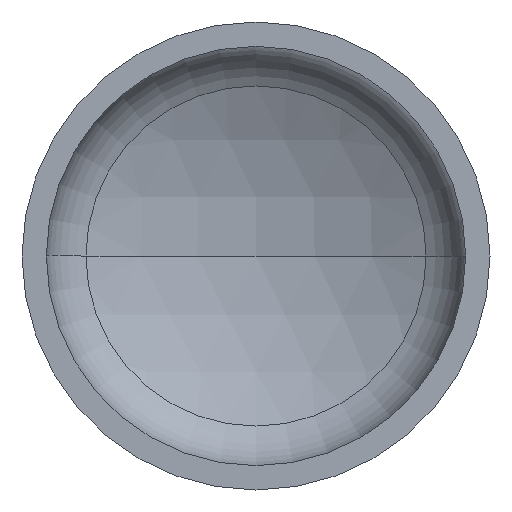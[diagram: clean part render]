
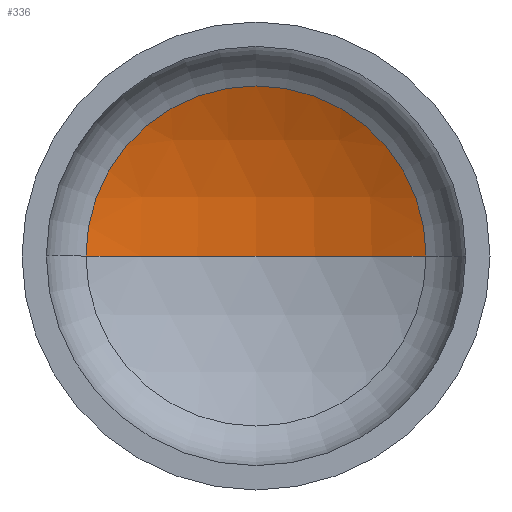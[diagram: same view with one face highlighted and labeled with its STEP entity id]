
A CAD part, front view. The second image highlights one B-rep face of the part: STEP entity #336.
In plain terms, the highlighted spherical face has radius 800 mm.
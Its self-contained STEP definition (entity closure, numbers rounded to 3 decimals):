
#4 = AXIS2_PLACEMENT_3D ( 'NONE', #193, #290, #84 ) ;
#11 = AXIS2_PLACEMENT_3D ( 'NONE', #238, #337, #61 ) ;
#18 = EDGE_LOOP ( 'NONE', ( #95, #47, #197 ) ) ;
#37 = CARTESIAN_POINT ( 'NONE',  ( 0., -454.609, 0. ) ) ;
#38 = AXIS2_PLACEMENT_3D ( 'NONE', #37, #160, #162 ) ;
#47 = ORIENTED_EDGE ( 'NONE', *, *, #385, .T. ) ;
#61 = DIRECTION ( 'NONE',  ( 1., 0., 0. ) ) ;
#83 = FACE_OUTER_BOUND ( 'NONE', #18, .T. ) ;
#84 = DIRECTION ( 'NONE',  ( 1., 0., 0. ) ) ;
#95 = ORIENTED_EDGE ( 'NONE', *, *, #369, .F. ) ;
#131 = VERTEX_POINT ( 'NONE', #320 ) ;
#144 = DIRECTION ( 'NONE',  ( -1., 0., 0. ) ) ;
#160 = DIRECTION ( 'NONE',  ( 0., 0., -1. ) ) ;
#162 = DIRECTION ( 'NONE',  ( -1., 0., 0. ) ) ;
#181 = CIRCLE ( 'NONE', #4, 363.411 ) ;
#193 = CARTESIAN_POINT ( 'NONE',  ( 0., 258.084, 0. ) ) ;
#197 = ORIENTED_EDGE ( 'NONE', *, *, #389, .T. ) ;
#212 = AXIS2_PLACEMENT_3D ( 'NONE', #405, #272, #144 ) ;
#238 = CARTESIAN_POINT ( 'NONE',  ( 0., -454.609, 0. ) ) ;
#272 = DIRECTION ( 'NONE',  ( 0., 0., -1. ) ) ;
#275 = VERTEX_POINT ( 'NONE', #338 ) ;
#290 = DIRECTION ( 'NONE',  ( 0., -1., 0. ) ) ;
#320 = CARTESIAN_POINT ( 'NONE',  ( -363.411, 258.084, 0. ) ) ;
#335 = SPHERICAL_SURFACE ( 'NONE', #38, 800. ) ;
#336 = ADVANCED_FACE ( 'NONE', ( #83 ), #335, .F. ) ;
#337 = DIRECTION ( 'NONE',  ( 0., 0., 1. ) ) ;
#338 = CARTESIAN_POINT ( 'NONE',  ( 363.411, 258.084, 0. ) ) ;
#369 = EDGE_CURVE ( 'NONE', #392, #131, #376, .T. ) ;
#370 = CIRCLE ( 'NONE', #212, 800. ) ;
#376 = CIRCLE ( 'NONE', #11, 800. ) ;
#385 = EDGE_CURVE ( 'NONE', #392, #275, #370, .T. ) ;
#387 = CARTESIAN_POINT ( 'NONE',  ( 0., 345.391, 0. ) ) ;
#389 = EDGE_CURVE ( 'NONE', #275, #131, #181, .T. ) ;
#392 = VERTEX_POINT ( 'NONE', #387 ) ;
#405 = CARTESIAN_POINT ( 'NONE',  ( 0., -454.609, 0. ) ) ;
